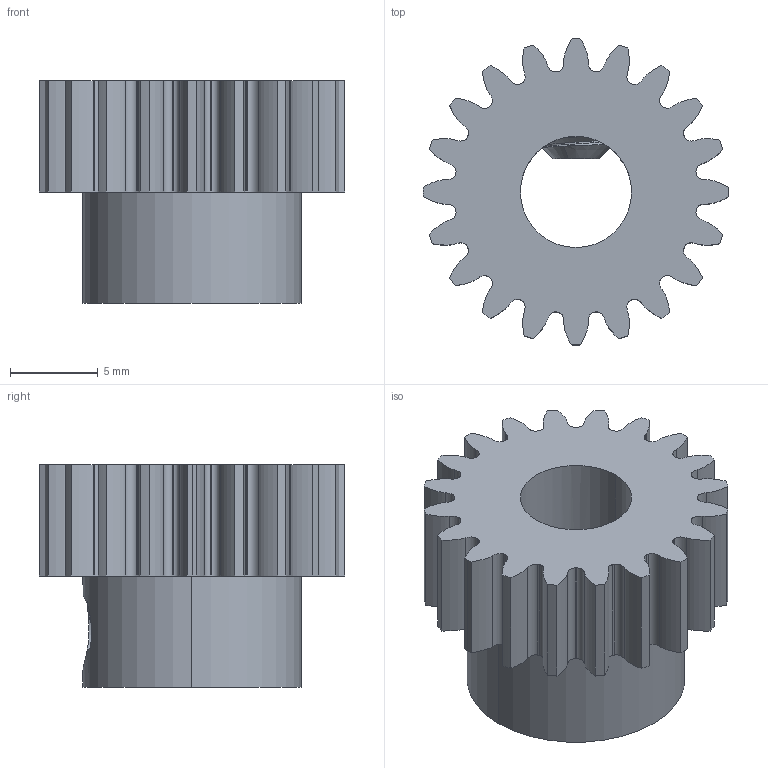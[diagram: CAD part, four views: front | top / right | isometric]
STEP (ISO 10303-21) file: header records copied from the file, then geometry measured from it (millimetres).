
FILE_DESCRIPTION (( 'STEP AP203' ), '1' );
FILE_NAME ('615246 assembly.STEP', '2016-10-04T20:24:09', ( '' ), ( '' ), 'SwSTEP 2.0', 'SolidWorks 2014', '' );
FILE_SCHEMA (( 'CONFIG_CONTROL_DESIGN' ));
Length unit declared in the file: inch
Products named in the file (3): 615246_Gear Blank; 615246 assembly; 632134_91375A436
Assembly tree (2 placements, depth 2):
  615246 assembly
    615246_Gear Blank
    632134_91375A436
Bounding box: 17.46 x 17.46 x 12.7 mm (x, y, z)
Volume: 1592.4 mm3; surface area: 1581.8 mm2
Topology: 2 solids, 2 shells, 241 faces, 688 edges, 449 vertices
Faces by surface type: bspline 92, cylinder 77, plane 56, cone 16
Entity records: 19062 total; most frequent: CARTESIAN_POINT 13291, ORIENTED_EDGE 1368, DIRECTION 825, EDGE_CURVE 684, VERTEX_POINT 449, VECTOR 297, LINE 297, AXIS2_PLACEMENT_3D 264
